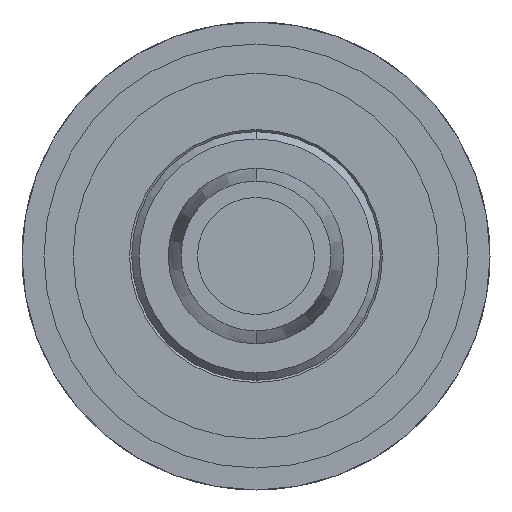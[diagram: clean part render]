
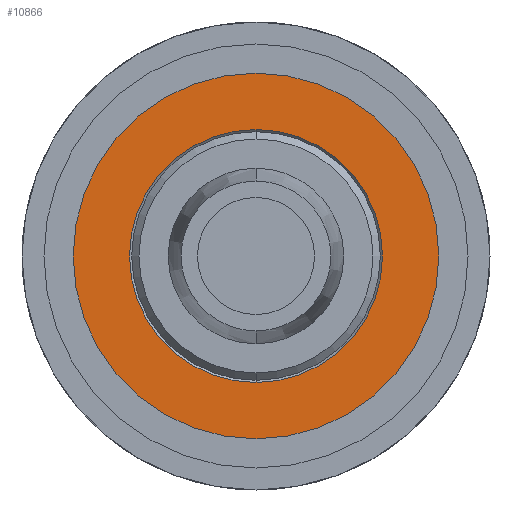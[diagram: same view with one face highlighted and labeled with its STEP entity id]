
A CAD part, front view. The second image highlights one B-rep face of the part: STEP entity #10866.
In plain terms, the highlighted planar face has unit normal (0, -1, 0) as drawn and (0, 0, 1) by its records, which use the part's own axes.
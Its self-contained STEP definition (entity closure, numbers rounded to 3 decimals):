
#287 = FACE_BOUND ( 'NONE', #12667, .T. ) ;
#491 = AXIS2_PLACEMENT_3D ( 'NONE', #12473, #5568, #13616 ) ;
#575 = AXIS2_PLACEMENT_3D ( 'NONE', #4045, #12086, #5187 ) ;
#664 = DIRECTION ( 'NONE',  ( 0., 0., 1. ) ) ;
#754 = EDGE_CURVE ( 'NONE', #9387, #3921, #6265, .T. ) ;
#1068 = AXIS2_PLACEMENT_3D ( 'NONE', #9607, #2682, #10760 ) ;
#1436 = CARTESIAN_POINT ( 'NONE',  ( 12.5, 0., 29.5 ) ) ;
#1600 = ORIENTED_EDGE ( 'NONE', *, *, #1630, .T. ) ;
#1630 = EDGE_CURVE ( 'NONE', #7236, #5960, #14161, .T. ) ;
#1635 = AXIS2_PLACEMENT_3D ( 'NONE', #7913, #13621, #3317 ) ;
#1928 = CARTESIAN_POINT ( 'NONE',  ( -8.65, 0., 29.5 ) ) ;
#2327 = ORIENTED_EDGE ( 'NONE', *, *, #3236, .F. ) ;
#2682 = DIRECTION ( 'NONE',  ( 0., 0., 1. ) ) ;
#2925 = CARTESIAN_POINT ( 'NONE',  ( 8.65, 0., 29.5 ) ) ;
#3236 = EDGE_CURVE ( 'NONE', #3921, #9387, #8871, .T. ) ;
#3317 = DIRECTION ( 'NONE',  ( 1., 0., 0. ) ) ;
#3921 = VERTEX_POINT ( 'NONE', #1928 ) ;
#4045 = CARTESIAN_POINT ( 'NONE',  ( 0., 0., 29.5 ) ) ;
#4346 = CARTESIAN_POINT ( 'NONE',  ( -12.5, 0., 29.5 ) ) ;
#5187 = DIRECTION ( 'NONE',  ( 1., 0., 0. ) ) ;
#5490 = ORIENTED_EDGE ( 'NONE', *, *, #754, .F. ) ;
#5568 = DIRECTION ( 'NONE',  ( 0., 0., 1. ) ) ;
#5763 = AXIS2_PLACEMENT_3D ( 'NONE', #13266, #664, #8713 ) ;
#5960 = VERTEX_POINT ( 'NONE', #4346 ) ;
#6265 = CIRCLE ( 'NONE', #1635, 8.65 ) ;
#6911 = CIRCLE ( 'NONE', #575, 12.5 ) ;
#7236 = VERTEX_POINT ( 'NONE', #1436 ) ;
#7913 = CARTESIAN_POINT ( 'NONE',  ( 0., 0., 29.5 ) ) ;
#8713 = DIRECTION ( 'NONE',  ( 1., 0., 0. ) ) ;
#8871 = CIRCLE ( 'NONE', #1068, 8.65 ) ;
#9101 = FACE_OUTER_BOUND ( 'NONE', #9957, .T. ) ;
#9387 = VERTEX_POINT ( 'NONE', #2925 ) ;
#9607 = CARTESIAN_POINT ( 'NONE',  ( 0., 0., 29.5 ) ) ;
#9957 = EDGE_LOOP ( 'NONE', ( #1600, #10320 ) ) ;
#10320 = ORIENTED_EDGE ( 'NONE', *, *, #12264, .T. ) ;
#10760 = DIRECTION ( 'NONE',  ( 1., 0., 0. ) ) ;
#10866 = ADVANCED_FACE ( 'NONE', ( #287, #9101 ), #12105, .T. ) ;
#12086 = DIRECTION ( 'NONE',  ( 0., 0., 1. ) ) ;
#12105 = PLANE ( 'NONE',  #5763 ) ;
#12264 = EDGE_CURVE ( 'NONE', #5960, #7236, #6911, .T. ) ;
#12473 = CARTESIAN_POINT ( 'NONE',  ( 0., 0., 29.5 ) ) ;
#12667 = EDGE_LOOP ( 'NONE', ( #5490, #2327 ) ) ;
#13266 = CARTESIAN_POINT ( 'NONE',  ( 0., 0., 29.5 ) ) ;
#13616 = DIRECTION ( 'NONE',  ( 1., 0., 0. ) ) ;
#13621 = DIRECTION ( 'NONE',  ( 0., 0., 1. ) ) ;
#14161 = CIRCLE ( 'NONE', #491, 12.5 ) ;
